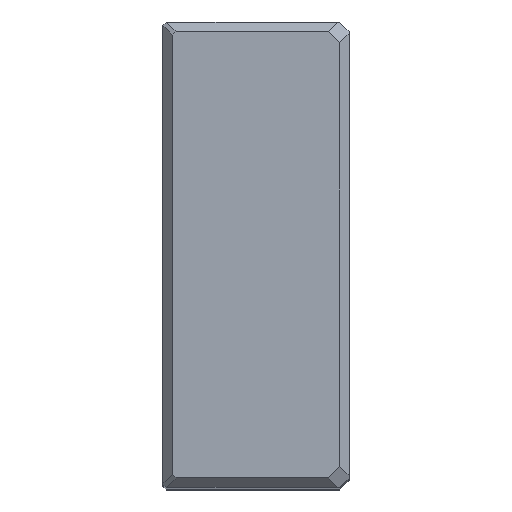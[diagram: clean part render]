
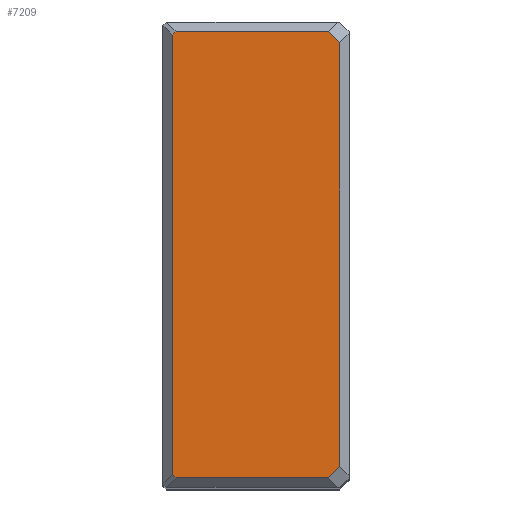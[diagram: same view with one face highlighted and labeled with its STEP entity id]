
A CAD part, top view. The second image highlights one B-rep face of the part: STEP entity #7209.
In plain terms, the highlighted planar face has unit normal (0, 0, 1).
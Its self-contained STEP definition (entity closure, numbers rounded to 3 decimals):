
#95=VERTEX_POINT(' ',#96);
#96=CARTESIAN_POINT('',(-3.,-68.326,0.));
#97=VERTEX_POINT(' ',#98);
#98=CARTESIAN_POINT('',(-6.674,-72.,0.));
#127=VERTEX_POINT(' ',#128);
#128=CARTESIAN_POINT('',(-3.,68.326,0.));
#135=VERTEX_POINT(' ',#136);
#136=CARTESIAN_POINT('',(-6.674,72.,0.));
#161=VERTEX_POINT(' ',#162);
#162=CARTESIAN_POINT('',(-55.775,-72.,0.));
#169=VERTEX_POINT(' ',#170);
#170=CARTESIAN_POINT('',(-57.,-70.775,0.));
#189=VERTEX_POINT(' ',#190);
#190=CARTESIAN_POINT('',(-57.,70.775,0.));
#193=VERTEX_POINT(' ',#194);
#194=CARTESIAN_POINT('',(-55.775,72.,0.));
#1456=LINE('',#1457,#1458);
#1457=CARTESIAN_POINT('',(32.663,-32.663,0.));
#1458=VECTOR('',#1459,1.);
#1459=DIRECTION('',(0.707,0.707,0.));
#1460=EDGE_CURVE(' ',#95,#97,#1456,.F.);
#1586=LINE('',#1587,#1588);
#1587=CARTESIAN_POINT('',(-3.,-75.12,0.));
#1588=VECTOR('',#1589,1.);
#1589=DIRECTION('',(0.,1.,0.));
#1590=EDGE_CURVE(' ',#95,#127,#1586,.T.);
#1611=LINE('',#1612,#1613);
#1612=CARTESIAN_POINT('',(32.663,32.663,0.));
#1613=VECTOR('',#1614,1.);
#1614=DIRECTION('',(-0.707,0.707,0.));
#1615=EDGE_CURVE(' ',#135,#127,#1611,.F.);
#1756=LINE('',#1757,#1758);
#1757=CARTESIAN_POINT('',(-60.12,-72.,0.));
#1758=VECTOR('',#1759,1.);
#1759=DIRECTION('',(1.,0.,0.));
#1760=EDGE_CURVE(' ',#161,#97,#1756,.T.);
#1771=LINE('',#1772,#1773);
#1772=CARTESIAN_POINT('',(-63.888,-63.888,0.));
#1773=VECTOR('',#1774,1.);
#1774=DIRECTION('',(0.707,-0.707,0.));
#1775=EDGE_CURVE(' ',#161,#169,#1771,.F.);
#1868=LINE('',#1869,#1870);
#1869=CARTESIAN_POINT('',(-57.,-75.12,0.));
#1870=VECTOR('',#1871,1.);
#1871=DIRECTION('',(0.,1.,0.));
#1872=EDGE_CURVE(' ',#169,#189,#1868,.T.);
#1873=LINE('',#1874,#1875);
#1874=CARTESIAN_POINT('',(-63.888,63.888,0.));
#1875=VECTOR('',#1876,1.);
#1876=DIRECTION('',(-0.707,-0.707,0.));
#1877=EDGE_CURVE(' ',#189,#193,#1873,.F.);
#1878=LINE('',#1879,#1880);
#1879=CARTESIAN_POINT('',(-60.12,72.,0.));
#1880=VECTOR('',#1881,1.);
#1881=DIRECTION('',(1.,0.,0.));
#1882=EDGE_CURVE(' ',#135,#193,#1878,.F.);
#7194=ORIENTED_EDGE('',*,*,#1877,.F.);
#7195=ORIENTED_EDGE('',*,*,#1872,.F.);
#7196=ORIENTED_EDGE('',*,*,#1775,.F.);
#7197=ORIENTED_EDGE('',*,*,#1760,.T.);
#7198=ORIENTED_EDGE('',*,*,#1460,.F.);
#7199=ORIENTED_EDGE('',*,*,#1590,.T.);
#7200=ORIENTED_EDGE('',*,*,#1615,.F.);
#7201=ORIENTED_EDGE('',*,*,#1882,.T.);
#7202=EDGE_LOOP('',(#7194,#7195,#7196,#7197,#7198,#7199,#7200,#7201));
#7203=FACE_OUTER_BOUND('',#7202,.T.);
#7204=PLANE('',#7205);
#7205=AXIS2_PLACEMENT_3D('',#7206,#7207,#7208);
#7206=CARTESIAN_POINT('',(-57.,0.,0.));
#7207=DIRECTION('',(0.,0.,1.));
#7208=DIRECTION('',(1.,0.,0.));
#7209=ADVANCED_FACE('',(#7203),#7204,.T.);
